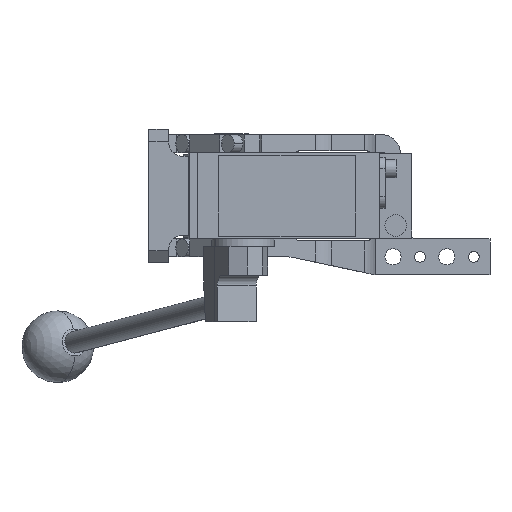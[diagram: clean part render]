
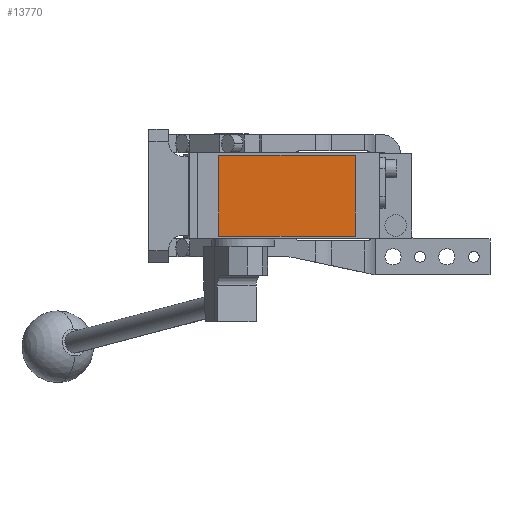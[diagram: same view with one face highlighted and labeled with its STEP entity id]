
A CAD part, front view. The second image highlights one B-rep face of the part: STEP entity #13770.
In plain terms, the highlighted planar face has unit normal (0, -1, 0).
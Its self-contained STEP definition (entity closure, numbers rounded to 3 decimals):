
#62 = ORIENTED_EDGE ( 'NONE', *, *, #8589, .T. ) ;
#121 = VECTOR ( 'NONE', #1835, 1000. ) ;
#951 = EDGE_LOOP ( 'NONE', ( #4418, #62, #2316, #4528 ) ) ;
#1755 = CARTESIAN_POINT ( 'NONE',  ( 69., -280.5, 22.5 ) ) ;
#1835 = DIRECTION ( 'NONE',  ( 0., 0., 1. ) ) ;
#2221 = CARTESIAN_POINT ( 'NONE',  ( 0., -280.5, 0. ) ) ;
#2316 = ORIENTED_EDGE ( 'NONE', *, *, #5562, .T. ) ;
#2626 = DIRECTION ( 'NONE',  ( 0., 0., -1. ) ) ;
#2728 = CARTESIAN_POINT ( 'NONE',  ( -7., -280.5, 22.5 ) ) ;
#2862 = CARTESIAN_POINT ( 'NONE',  ( 69., -280.5, 22.5 ) ) ;
#3144 = LINE ( 'NONE', #11482, #10784 ) ;
#3323 = VERTEX_POINT ( 'NONE', #2862 ) ;
#4418 = ORIENTED_EDGE ( 'NONE', *, *, #12462, .T. ) ;
#4528 = ORIENTED_EDGE ( 'NONE', *, *, #8554, .T. ) ;
#5562 = EDGE_CURVE ( 'NONE', #9519, #3323, #10673, .T. ) ;
#5882 = PLANE ( 'NONE',  #6091 ) ;
#6091 = AXIS2_PLACEMENT_3D ( 'NONE', #2221, #13490, #10968 ) ;
#6093 = VECTOR ( 'NONE', #2626, 1000. ) ;
#6283 = CARTESIAN_POINT ( 'NONE',  ( -7., -280.5, 22.5 ) ) ;
#7641 = CARTESIAN_POINT ( 'NONE',  ( 69., -280.5, -22.5 ) ) ;
#7872 = DIRECTION ( 'NONE',  ( 1., 0., 0. ) ) ;
#8554 = EDGE_CURVE ( 'NONE', #3323, #13543, #11335, .T. ) ;
#8589 = EDGE_CURVE ( 'NONE', #11366, #9519, #3144, .T. ) ;
#9519 = VERTEX_POINT ( 'NONE', #7641 ) ;
#9974 = DIRECTION ( 'NONE',  ( -1., 0., 0. ) ) ;
#10673 = LINE ( 'NONE', #1755, #121 ) ;
#10784 = VECTOR ( 'NONE', #7872, 1000. ) ;
#10968 = DIRECTION ( 'NONE',  ( 0., 0., -1. ) ) ;
#11335 = LINE ( 'NONE', #2728, #12826 ) ;
#11366 = VERTEX_POINT ( 'NONE', #12925 ) ;
#11482 = CARTESIAN_POINT ( 'NONE',  ( -7., -280.5, -22.5 ) ) ;
#12018 = FACE_OUTER_BOUND ( 'NONE', #951, .T. ) ;
#12448 = LINE ( 'NONE', #6283, #6093 ) ;
#12462 = EDGE_CURVE ( 'NONE', #13543, #11366, #12448, .T. ) ;
#12826 = VECTOR ( 'NONE', #9974, 1000. ) ;
#12925 = CARTESIAN_POINT ( 'NONE',  ( -7., -280.5, -22.5 ) ) ;
#13490 = DIRECTION ( 'NONE',  ( 0., -1., 0. ) ) ;
#13543 = VERTEX_POINT ( 'NONE', #14847 ) ;
#13770 = ADVANCED_FACE ( 'NONE', ( #12018 ), #5882, .T. ) ;
#14847 = CARTESIAN_POINT ( 'NONE',  ( -7., -280.5, 22.5 ) ) ;
